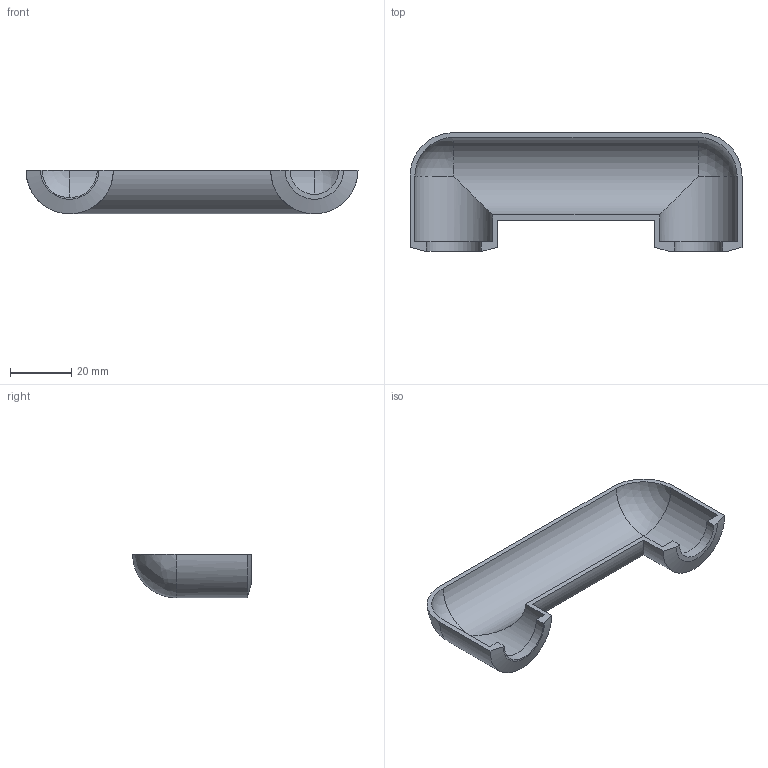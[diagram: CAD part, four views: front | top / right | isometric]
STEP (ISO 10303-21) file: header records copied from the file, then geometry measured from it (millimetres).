
FILE_DESCRIPTION(/* description */ ('Alibre Inc.'),/* implementation_level */ '2;1');
FILE_NAME(/* name */ 'export-651FF3D6-BA20-4380-9CF1-A65A0A6D1D36',/* time_stamp */ '2025-06-13T15:42:13+10:00',/* author */ (''),/* organization */ (''),/* preprocessor_version */ 'ST-DEVELOPER v17',/* originating_system */ 'Alibre',/* authorisation */ '');
FILE_SCHEMA (('CONFIG_CONTROL_DESIGN'));
Length unit declared in the file: millimetre
Bounding box: 108.58 x 38.8 x 14.29 mm (x, y, z)
Volume: 9041.9 mm3; surface area: 11568 mm2
Topology: 1 solids, 1 shells, 20 faces, 62 edges, 40 vertices
Faces by surface type: cylinder 8, plane 6, sphere 2, bspline 2, cone 2
Entity records: 989 total; most frequent: CARTESIAN_POINT 373, ORIENTED_EDGE 116, DIRECTION 105, EDGE_CURVE 58, AXIS2_PLACEMENT_3D 41, VERTEX_POINT 40, VECTOR 28, LINE 28
